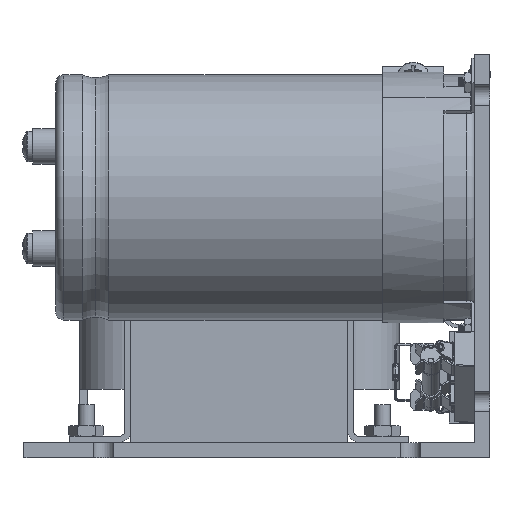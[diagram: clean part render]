
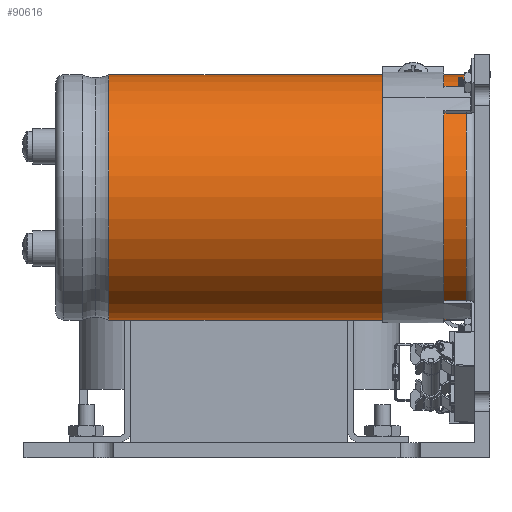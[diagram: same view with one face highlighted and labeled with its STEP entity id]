
A CAD part, left-side view. The second image highlights one B-rep face of the part: STEP entity #90616.
In plain terms, the highlighted cylindrical face has radius 38.1 mm (diameter 76.2 mm), a partial arc.
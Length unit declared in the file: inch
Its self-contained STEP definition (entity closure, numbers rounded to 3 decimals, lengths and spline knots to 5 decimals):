
#89713=CARTESIAN_POINT('',(1.87088,4.662,3.18523));
#89714=DIRECTION('',(0.,1.,0.));
#89715=DIRECTION('',(0.,0.,-1.));
#89716=AXIS2_PLACEMENT_3D('',#89713,#89714,#89715);
#89729=DIRECTION('',(0.,1.,0.));
#89730=VECTOR('',#89729,4.375);
#89731=CARTESIAN_POINT('',(1.87088,0.287,4.68523));
#89732=LINE('',#89731,#89730);
#89736=DIRECTION('',(0.,1.,0.));
#89737=VECTOR('',#89736,4.375);
#89738=CARTESIAN_POINT('',(1.87088,0.287,1.68523));
#89739=LINE('',#89738,#89737);
#89767=CARTESIAN_POINT('',(1.87088,0.287,3.18523));
#89768=DIRECTION('',(0.,-1.,0.));
#89769=DIRECTION('',(0.,0.,1.));
#89770=AXIS2_PLACEMENT_3D('',#89767,#89768,#89769);
#90201=CARTESIAN_POINT('',(1.87088,0.287,1.68523));
#90202=CARTESIAN_POINT('',(1.87088,4.662,1.68523));
#90203=VERTEX_POINT('',#90201);
#90204=VERTEX_POINT('',#90202);
#90217=CARTESIAN_POINT('',(1.87088,0.287,4.68523));
#90218=CARTESIAN_POINT('',(1.87088,4.662,4.68523));
#90219=VERTEX_POINT('',#90217);
#90220=VERTEX_POINT('',#90218);
#90602=CARTESIAN_POINT('',(1.87088,0.187,3.18523));
#90603=DIRECTION('',(0.,-1.,0.));
#90604=DIRECTION('',(0.,0.,1.));
#90605=AXIS2_PLACEMENT_3D('',#90602,#90603,#90604);
#90606=CYLINDRICAL_SURFACE('',#90605,1.5);
#90607=ORIENTED_EDGE('',*,*,#90587,.T.);
#90609=ORIENTED_EDGE('',*,*,#90608,.F.);
#90611=ORIENTED_EDGE('',*,*,#90610,.T.);
#90613=ORIENTED_EDGE('',*,*,#90612,.T.);
#90614=EDGE_LOOP('',(#90607,#90609,#90611,#90613));
#90615=FACE_OUTER_BOUND('',#90614,.F.);
#89717=CIRCLE('',#89716,1.5);
#89771=CIRCLE('',#89770,1.5);
#90587=EDGE_CURVE('',#90204,#90220,#89717,.T.);
#90608=EDGE_CURVE('',#90219,#90220,#89732,.T.);
#90610=EDGE_CURVE('',#90219,#90203,#89771,.T.);
#90612=EDGE_CURVE('',#90203,#90204,#89739,.T.);
#90616=ADVANCED_FACE('',(#90615),#90606,.T.);
